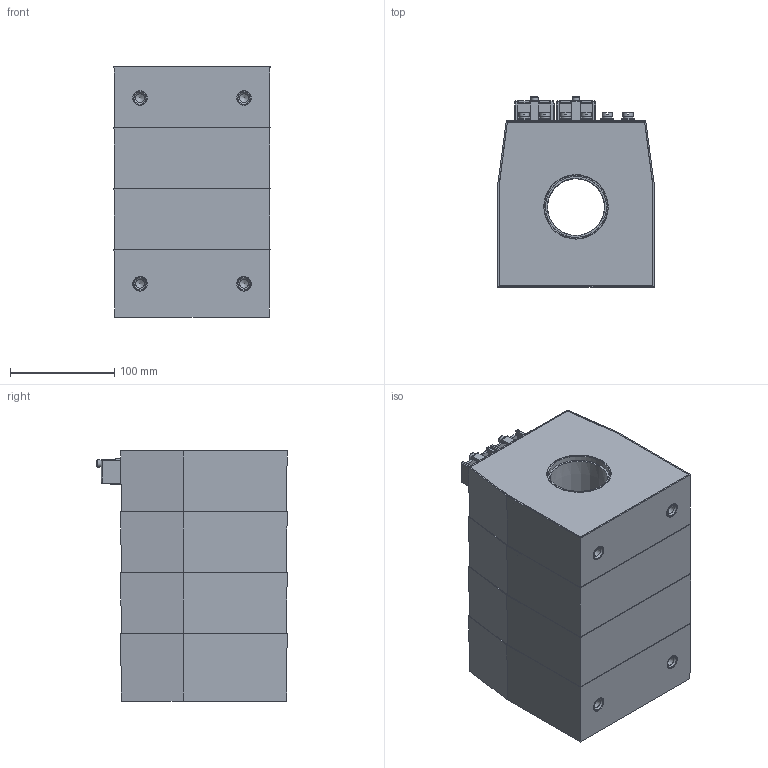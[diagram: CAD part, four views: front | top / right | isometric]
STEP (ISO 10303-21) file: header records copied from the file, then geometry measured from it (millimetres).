
FILE_DESCRIPTION(('STEP AP203'), '1');
FILE_NAME('ÒØÏ-ÍÒÇ-0,66-74À (55 ìì, 4-é ãàáàðèò)', '2025-08-27T09:36:33', ('UNSPECIFIED'), ('UNSPECIFIED'), 'ASCON STEP Converter 1.3', 'ASCON Math Kernel', '');
FILE_SCHEMA(('CONFIG_CONTROL_DESIGN'));
Length unit declared in the file: millimetre
Assembly tree (43 placements, depth 2):
  (unnamed)
    (unnamed)
    (unnamed)  x2
    (unnamed)
    (unnamed)  x4
    (unnamed)  x4
    (unnamed)  x2
    (unnamed)  x6
    (unnamed)  x2
    (unnamed)  x6
    (unnamed)  x6
    (unnamed)  x6
    (unnamed)  x2
    (unnamed)
Bounding box: 150 x 182.93 x 240.5 mm (x, y, z)
Volume: 800038.8 mm3; surface area: 538232.1 mm2
Topology: 43 solids, 43 shells, 698 faces, 1566 edges, 981 vertices
Faces by surface type: plane 380, cylinder 198, cone 84, torus 20, bspline 16
Full cylindrical faces by diameter (mm): 3.244 x2, 3.95 x2, 4 x6, 4.5 x2, 4.8 x6, 4.92 x6, 6 x18, 6.4 x6, 7 x2, 7.1 x4, 8 x2, 8.376 x4, 10 x12, 10.1 x6, 12 x12, 14 x8, 17 x4, 55 x1, 55.05 x1, 58.599 x8, 58.6 x1, 61 x1, 65.05 x1, 68.6 x1
Entity records: 14278 total; most frequent: CARTESIAN_POINT 2824, DIRECTION 1590, ORIENTED_EDGE 1398, EDGE_CURVE 699, AXIS2_PLACEMENT_3D 576, VERTEX_POINT 492, EDGE_LOOP 469, LINE 438
